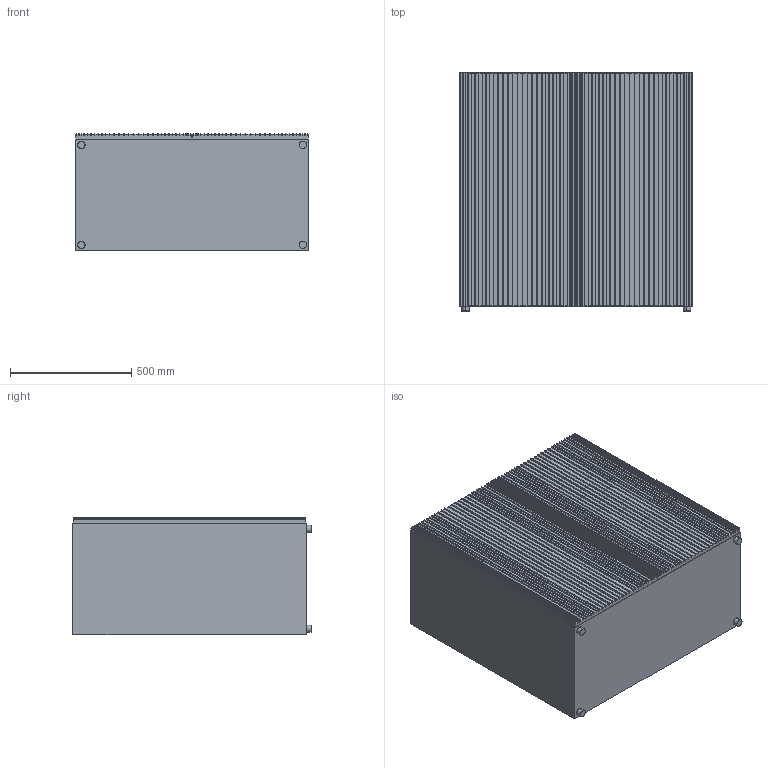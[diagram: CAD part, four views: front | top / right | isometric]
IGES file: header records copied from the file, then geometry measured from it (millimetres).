
Start section: SolidWorks IGES file using analytic representation for surfaces
Global section: file name: C:\Users\Matteo\Desktop\_Horm\_carlos\_collezione carlos\_IGS CARLOS\CARLOS cm 96X49X98H.IGS; native system: SolidWorks 2010; preprocessor: SolidWorks 2010; author: Matteo; date: 160224.161640; units: millimetre
Bounding box: 962 x 980 x 484 mm (x, y, z)
Surface area: 7580259.8 mm2 (no closed solid volume)
Topology: 0 solids, 0 shells, 650 faces, 3464 edges, 3464 vertices
Faces by surface type: bspline 642, revolution 8
